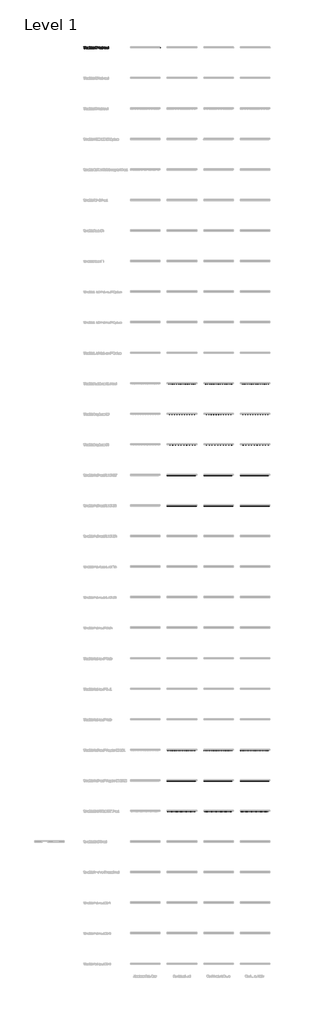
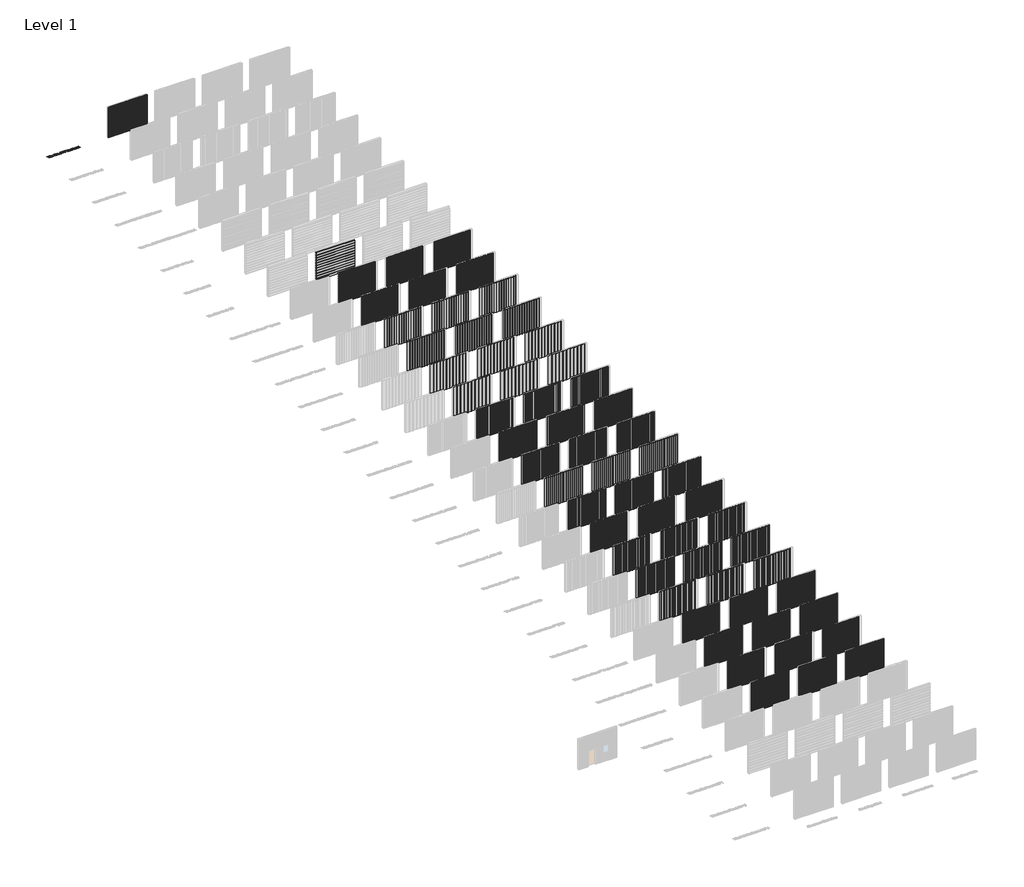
# One storey, part 32 of 33: 60 proxies.
"""IFC4 building model written with IfcOpenShell, lengths in millimetres."""

from ifc_helpers import new_model, si_unit, origin, origin_with_axes, place, context, project, spatial, polyline, outline, extrude, transform, mapped, element, save
from components import aluminum_slate_gray_67ce4d6b, aluminum_slate_gray_498a6bbb, aluminum_slate_gray_40f3fb9b, aluminum_slate_gray_a4144698, aluminum_slate_gray_9a56e31e, aluminum_slate_gray_e1f096ed, steel_bone_white_7c3ab337, aluminum_slate_gray_4f0563ca, aluminum_slate_gray_5a49ca79, aluminum_slate_gray_56dc9e37, aluminum_slate_gray_adac02c7, aluminum_slate_gray_b45d79fe, aluminum_slate_gray_941ba9cd, aluminum_slate_gray_e42b10ff, aluminum_slate_gray_25c6ed16, titantek_7_2_cf_panel_aluminum_slate_gray_eb07de06, titantek_7_2_corrugated_panel_aluminum_slate_gray_cb239071, titantek_flush_100_aluminum_slate_gray_4e4c1b2d, titantek_mechseam_200_panel_aluminum_slate_gray_48fcd1a1, titantek_snapseam_100_panel_aluminum_slate_gray_e5d117f6, titantek_snapseam_175_panel_aluminum_slate_gray_91694518

model = new_model("IFC4")

# Units and contexts
model_context = context("Model", 3, world=origin())
ifc_project = project(units=[si_unit("LENGTHUNIT", "METRE", prefix="MILLI")], contexts=[model_context])

# Site, building, storey
site = spatial("IfcSite", under=ifc_project)
building = spatial("IfcBuilding", under=site)
storey = spatial("IfcBuildingStorey", under=building, Name="Level 1", Elevation=0.0)

# Proxies
placement = place(None, origin())
element("IfcBuildingElementProxy", 1, Name="600mm Arial 2", ObjectType="600mm Arial 2", at=placement, inside=storey, context=model_context, shape_type="SweptSolid", body=[
    extrude(outline(polyline([(-9914.9924556, 132220.4128343), (-9914.9924556, 131952.9873502), (-9954.4439015, 131952.9873502), (-9954.4439015, 132220.4128343), (-10038.8787304, 132220.4128343), (-10038.8787304, 132257.3166776), (-9830.5576267, 132257.3166776), (-9830.5576267, 132220.4128343), (-9914.9924556, 132220.4128343)])), origin_with_axes(), (0.0, 0.0, 1.0), 5.0),
    extrude(outline(polyline([(-9763.1553408, 132253.0221475), (-9763.1553408, 132205.8551051), (-9802.6067867, 132205.8551051), (-9802.6067867, 132253.0221475), (-9763.1553408, 132253.0221475)])), origin_with_axes(), (0.0, 0.0, 1.0), 5.0),
    extrude(outline(polyline([(-9764.0288046, 132178.8505176), (-9764.0288046, 131952.9873502), (-9801.733323, 131952.9873502), (-9801.733323, 132178.8505176), (-9764.0288046, 132178.8505176)])), origin_with_axes(), (0.0, 0.0, 1.0), 5.0),
    extrude(outline(polyline([(-9648.294858, 132012.601251), (-9646.8208879, 132001.5191797), (-9642.3989777, 131993.6034145), (-9635.0291273, 131988.8539554), (-9624.7113368, 131987.2708023), (-9603.2386864, 131987.2708023), (-9603.2386864, 131952.9873502), (-9629.3698101, 131952.9873502), (-9653.1535001, 131956.9543314), (-9671.3688587, 131968.855275), (-9682.6692959, 131987.3981825), (-9686.4361083, 132011.2910554), (-9686.4361083, 132147.1146681), (-9720.2828285, 132147.1146681), (-9720.2828285, 132178.8505176), (-9686.4361083, 132178.8505176), (-9686.4361083, 132226.8910237), (-9648.294858, 132244.8698192), (-9648.294858, 132178.8505176), (-9599.3808881, 132178.8505176), (-9599.3808881, 132147.1146681), (-9648.294858, 132147.1146681), (-9648.294858, 132012.601251)])), origin_with_axes(), (0.0, 0.0, 1.0), 5.0),
    extrude(outline(polyline([(-9422.8684225, 132162.1091291), (-9413.2830677, 132151.3409589), (-9406.4363858, 132138.2526505), (-9400.9590402, 132105.1156196), (-9400.9590402, 131952.9873502), (-9438.2996154, 131952.9873502), (-9438.2996154, 131969.2920069), (-9456.7151427, 131956.8451485), (-9473.7476858, 131952.0410978), (-9493.9829293, 131950.4397476), (-9526.0281305, 131954.7160806), (-9550.1029751, 131967.5450794), (-9565.2248162, 131989.3270816), (-9570.2654299, 132018.5699199), (-9565.1338304, 132046.2114081), (-9549.7390318, 132067.4111012), (-9525.063681, 132080.6222403), (-9493.1094655, 132085.0259534), (-9438.7363472, 132085.0259534), (-9438.7363472, 132105.5523515), (-9441.6296959, 132124.441005), (-9450.3097419, 132138.1616647), (-9464.2305704, 132146.1866129), (-9483.7197302, 132148.8615956), (-9502.2262434, 132146.6051476), (-9515.819523, 132139.8358036), (-9524.1720201, 132129.4816187), (-9526.9561857, 132115.4516073), (-9526.9561857, 132109.8468816), (-9563.8600291, 132109.8468816), (-9563.8600291, 132116.2522824), (-9558.4008807, 132143.2932642), (-9542.0234354, 132164.2927885), (-9516.8203668, 132177.4493362), (-9484.1564621, 132181.8348521), (-9448.6719974, 132176.9034213), (-9434.5600987, 132170.7391329), (-9422.8684225, 132162.1091291)]), holes=[polyline([(-9450.6736851, 131994.5496669), (-9441.7206817, 132009.4531421), (-9438.7363472, 132031.0167784), (-9438.7363472, 132054.9642428), (-9488.8149354, 132054.9642428), (-9507.9538, 132052.7168933), (-9521.6244175, 132045.974845), (-9529.826788, 132034.7380979), (-9532.5609115, 132019.0066518), (-9529.8540837, 132003.0522906), (-9521.7336004, 131991.6563182), (-9508.1994616, 131984.8187348), (-9489.2516673, 131982.5395404), (-9466.104878, 131985.542072), (-9450.6736851, 131994.5496669)])]), origin_with_axes(), (0.0, 0.0, 1.0), 5.0),
    extrude(outline(polyline([(-9306.6977441, 132178.8505176), (-9306.6977441, 132160.4349903), (-9288.2822167, 132173.6825238), (-9271.1222935, 132179.4692211), (-9252.2518372, 132181.3981202), (-9219.9154813, 132175.9389718), (-9206.7907787, 132169.1150363), (-9195.6950595, 132159.5615265), (-9187.0650557, 132147.9790333), (-9180.9007673, 132134.1946835), (-9175.9693365, 132100.0204144), (-9175.9693365, 131952.9873502), (-9213.673855, 131952.9873502), (-9213.673855, 132095.7258843), (-9216.6763866, 132118.1083928), (-9225.6839815, 132133.8671346), (-9240.3781893, 132143.4752358), (-9259.567096, 132146.6779363), (-9278.7378056, 132143.4752358), (-9293.3774219, 132133.8671346), (-9303.0401146, 132117.453295), (-9306.2610122, 132095.7258843), (-9306.2610122, 131952.9873502), (-9343.9655306, 131952.9873502), (-9343.9655306, 132178.8505176), (-9306.6977441, 132178.8505176)])), origin_with_axes(), (0.0, 0.0, 1.0), 5.0),
    extrude(outline(polyline([(-9025.2240514, 132220.4128343), (-9025.2240514, 131952.9873502), (-9064.6754974, 131952.9873502), (-9064.6754974, 132220.4128343), (-9149.1103263, 132220.4128343), (-9149.1103263, 132257.3166776), (-8940.7892225, 132257.3166776), (-8940.7892225, 132220.4128343), (-9025.2240514, 132220.4128343)])), origin_with_axes(), (0.0, 0.0, 1.0), 5.0),
    extrude(outline(polyline([(-8884.5235994, 132047.2486463), (-8881.1025331, 132017.8329349), (-8870.8393341, 131998.8805913), (-8854.3527058, 131988.5900965), (-8832.2613519, 131985.1599316), (-8812.990558, 131987.7257314), (-8798.8513635, 131995.4231306), (-8790.1713175, 132007.1966941), (-8787.2779689, 132022.86445), (-8787.2779689, 132028.3963871), (-8750.3741256, 132028.3963871), (-8750.3741256, 132021.9909863), (-8756.0516399, 131992.8391337), (-8763.1485329, 131980.528754), (-8773.084183, 131969.7287387), (-8799.7976159, 131955.2619954), (-8834.3722226, 131950.4397476), (-8853.3222916, 131951.9387388), (-8870.2843206, 131956.4357123), (-8885.2583098, 131963.9306682), (-8898.2442591, 131974.4236064), (-8908.7371973, 131988.0237099), (-8916.2321532, 132004.8401617), (-8920.7291267, 132024.8729617), (-8922.2281179, 132048.1221101), (-8922.2281179, 132085.8266285), (-8920.7314014, 132108.5321367), (-8916.2412518, 132128.1714231), (-8908.7576691, 132144.7444879), (-8898.2806535, 132158.2513309), (-8885.4971476, 132168.5691214), (-8870.7301511, 132175.9389718), (-8853.979664, 132180.360882), (-8835.2456864, 132181.8348521), (-8816.8438069, 132180.360882), (-8800.2161506, 132175.9389718), (-8785.3627176, 132168.5691214), (-8772.2835079, 132158.2513309), (-8761.9657174, 132144.9082623), (-8754.595867, 132128.389789), (-8750.1739568, 132108.6959111), (-8748.6999867, 132085.8266285), (-8748.6999867, 132055.8377065), (-8884.5235994, 132055.8377065), (-8884.5235994, 132047.2486463)]), holes=[polyline([(-8871.2760659, 132133.4304027), (-8881.2117161, 132115.30603), (-8884.5235994, 132086.7000923), (-8786.4045051, 132086.2633604), (-8786.4045051, 132089.6844267), (-8789.6254027, 132116.9255774), (-8799.2880954, 132134.3038665), (-8814.9012599, 132143.5844188), (-8835.2456864, 132146.6779363), (-8855.60831, 132143.3660529), (-8871.2760659, 132133.4304027)])]), origin_with_axes(), (0.0, 0.0, 1.0), 5.0),
    extrude(outline(polyline([(-8663.391694, 132020.3168474), (-8663.391694, 131952.9873502), (-8701.0962125, 131952.9873502), (-8701.0962125, 132257.3166776), (-8663.391694, 132257.3166776), (-8663.391694, 132070.8321675), (-8575.0990669, 132178.8505176), (-8528.3687564, 132178.8505176), (-8602.5403863, 132091.8680861), (-8517.6688255, 131952.9873502), (-8563.5256722, 131952.9873502), (-8627.7980463, 132062.6798392), (-8663.391694, 132020.3168474)])), origin_with_axes(), (0.0, 0.0, 1.0), 5.0),
    extrude(outline(polyline([(-8290.7138284, 132257.3166776), (-8267.5260955, 132255.5470037), (-8246.8040779, 132250.2379818), (-8228.5477758, 132241.3896121), (-8212.7571889, 132229.0018945), (-8200.1784011, 132212.6471956), (-8191.1935527, 132192.3346142), (-8185.8026436, 132168.0641502), (-8184.0056739, 132139.8358036), (-8184.0056739, 132070.3954356), (-8185.8026436, 132042.1716383), (-8191.1935527, 132017.9148221), (-8200.1784011, 131997.6249872), (-8212.7571889, 131981.3021334), (-8228.5477758, 131968.9144158), (-8246.8040779, 131960.066046), (-8267.5260955, 131954.7570242), (-8290.7138284, 131952.9873502), (-8396.1845759, 131952.9873502), (-8396.1845759, 132257.3166776), (-8290.7138284, 132257.3166776)]), holes=[polyline([(-8290.3498852, 131989.8184049), (-8261.4664407, 131994.7498357), (-8250.1193733, 132000.9141241), (-8240.835409, 132009.5441279), (-8228.4567899, 132034.2012816), (-8224.3305836, 132068.7212968), (-8224.3305836, 132138.5983966), (-8228.6069165, 132176.0663519), (-8233.9523327, 132190.1464056), (-8241.4359153, 132201.1238432), (-8262.035102, 132215.5905865), (-8290.3498852, 132220.4128343), (-8355.8596662, 132220.4128343), (-8355.8596662, 131989.8184049), (-8290.3498852, 131989.8184049)])]), origin_with_axes(), (0.0, 0.0, 1.0), 5.0),
    extrude(outline(polyline([(-7975.0294723, 132257.3166776), (-7933.4671557, 132257.3166776), (-8032.8964456, 131952.9873502), (-8064.6322951, 131952.9873502), (-8163.6248531, 132257.3166776), (-8122.0625365, 132257.3166776), (-8048.3276385, 132022.86445), (-7975.0294723, 132257.3166776)])), origin_with_axes(), (0.0, 0.0, 1.0), 5.0),
    extrude(outline(polyline([(-7892.9238801, 131968.855275), (-7902.66846, 131980.1466136), (-7909.6288742, 131993.0574997), (-7915.1972056, 132023.7379138), (-7915.1972056, 132034.8745766), (-7875.3090278, 132034.8745766), (-7875.3090278, 132024.9753208), (-7872.5248621, 132008.2703266), (-7864.172365, 131995.8598625), (-7850.7792542, 131987.8349143), (-7832.8732474, 131985.1599316), (-7814.2575513, 131988.253449), (-7800.3367228, 131997.5340014), (-7791.6566768, 132012.6558425), (-7788.7633282, 132032.2541853), (-7788.7633282, 132043.3908481), (-7791.8750428, 132063.5715001), (-7801.2101866, 132079.4212277), (-7815.6405356, 132089.0839204), (-7835.0569068, 132092.304818), (-7854.7826297, 132092.304818), (-7854.7826297, 132129.1358727), (-7835.4936387, 132129.1358727), (-7818.1335467, 132132.1384043), (-7804.6312529, 132141.1459992), (-7796.2787558, 132155.5035595), (-7793.4945901, 132173.6825238), (-7793.4945901, 132182.271584), (-7796.1695729, 132200.1775908), (-7804.194521, 132213.5707016), (-7817.1509, 132222.2507476), (-7833.7467112, 132225.1440962), (-7850.4517053, 132222.4691135), (-7862.8621694, 132214.4441653), (-7870.6141602, 132201.5787722), (-7873.1981571, 132185.2559184), (-7873.1981571, 132174.1192557), (-7911.7761393, 132174.1192557), (-7911.7761393, 132186.1293822), (-7906.4079767, 132216.9917679), (-7899.6977734, 132229.857161), (-7890.3034888, 132241.012021), (-7879.0166995, 132249.9923201), (-7865.6827294, 132256.4068195), (-7832.8732474, 132261.5384191), (-7800.3185257, 132256.2976366), (-7786.9208656, 132249.7466585), (-7775.443006, 132240.5752891), (-7766.0805665, 132229.0155423), (-7759.3931097, 132215.7361638), (-7754.0431442, 132184.0185115), (-7754.0431442, 132174.5559875), (-7756.8273099, 132153.1379286), (-7765.179807, 132135.1773302), (-7774.8424997, 132123.0398236), (-7785.7789937, 132114.1414117), (-7771.7307851, 132104.2785502), (-7760.448545, 132090.1211586), (-7751.768499, 132069.0124514), (-7748.8751504, 132044.2643119), (-7748.8751504, 132034.0011128), (-7754.6618477, 131999.3901118), (-7761.8952193, 131984.7322983), (-7772.0219397, 131971.8396095), (-7784.6962626, 131961.7128891), (-7799.1357102, 131954.4795175), (-7833.3099793, 131948.6928201), (-7866.6289818, 131953.7334339), (-7892.9238801, 131968.855275)])), origin_with_axes(), (0.0, 0.0, 1.0), 5.0),
    extrude(outline(polyline([(-7443.9635138, 132257.3166776), (-7402.4011972, 132257.3166776), (-7501.8304871, 131952.9873502), (-7533.5663366, 131952.9873502), (-7632.5588946, 132257.3166776), (-7590.996578, 132257.3166776), (-7517.26168, 132022.86445), (-7443.9635138, 132257.3166776)])), origin_with_axes(), (0.0, 0.0, 1.0), 5.0),
    extrude(outline(polyline([(-7242.7029087, 132162.1091291), (-7233.1175539, 132151.3409589), (-7226.2708719, 132138.2526505), (-7220.7935263, 132105.1156196), (-7220.7935263, 131952.9873502), (-7258.1341015, 131952.9873502), (-7258.1341015, 131969.2920069), (-7276.5496289, 131956.8451485), (-7293.582172, 131952.0410978), (-7313.8174154, 131950.4397476), (-7345.8626167, 131954.7160806), (-7369.9374612, 131967.5450794), (-7385.0593024, 131989.3270816), (-7390.0999161, 132018.5699199), (-7384.9683165, 132046.2114081), (-7369.573518, 132067.4111012), (-7344.8981671, 132080.6222403), (-7312.9439517, 132085.0259534), (-7258.5708334, 132085.0259534), (-7258.5708334, 132105.5523515), (-7261.4641821, 132124.441005), (-7270.1442281, 132138.1616647), (-7284.0650565, 132146.1866129), (-7303.5542164, 132148.8615956), (-7322.0607296, 132146.6051476), (-7335.6540091, 132139.8358036), (-7344.0065062, 132129.4816187), (-7346.7906719, 132115.4516073), (-7346.7906719, 132109.8468816), (-7383.6945152, 132109.8468816), (-7383.6945152, 132116.2522824), (-7378.2353668, 132143.2932642), (-7361.8579216, 132164.2927885), (-7336.654853, 132177.4493362), (-7303.9909483, 132181.8348521), (-7268.5064835, 132176.9034213), (-7254.3945849, 132170.7391329), (-7242.7029087, 132162.1091291)]), holes=[polyline([(-7270.5081713, 131994.5496669), (-7261.5551679, 132009.4531421), (-7258.5708334, 132031.0167784), (-7258.5708334, 132054.9642428), (-7308.6494216, 132054.9642428), (-7327.7882861, 132052.7168933), (-7341.4589036, 132045.974845), (-7349.6612741, 132034.7380979), (-7352.3953976, 132019.0066518), (-7349.6885699, 132003.0522906), (-7341.5680866, 131991.6563182), (-7328.0339478, 131984.8187348), (-7309.0861535, 131982.5395404), (-7285.9393642, 131985.542072), (-7270.5081713, 131994.5496669)])]), origin_with_axes(), (0.0, 0.0, 1.0), 5.0),
    extrude(outline(polyline([(-7073.8332508, 132181.8348521), (-7053.670796, 132179.7239814), (-7053.670796, 132140.7092673), (-7080.2386516, 132146.313993), (-7098.5722917, 132142.7746451), (-7113.2483024, 132132.1566015), (-7122.8836994, 132115.7518604), (-7126.0954984, 132094.8524206), (-7126.0954984, 131952.9873502), (-7163.8000168, 131952.9873502), (-7163.8000168, 132178.8505176), (-7126.5322302, 132178.8505176), (-7126.5322302, 132159.1247947), (-7108.9901667, 132173.3185806), (-7092.8856788, 132179.7057842), (-7073.8332508, 132181.8348521)])), origin_with_axes(), (0.0, 0.0, 1.0), 5.0),
    extrude(outline(polyline([(-6977.3882954, 132253.0221475), (-6977.3882954, 132205.8551051), (-7016.8397413, 132205.8551051), (-7016.8397413, 132253.0221475), (-6977.3882954, 132253.0221475)])), origin_with_axes(), (0.0, 0.0, 1.0), 5.0),
    extrude(outline(polyline([(-6978.2617591, 132178.8505176), (-6978.2617591, 131952.9873502), (-7015.9662775, 131952.9873502), (-7015.9662775, 132178.8505176), (-6978.2617591, 132178.8505176)])), origin_with_axes(), (0.0, 0.0, 1.0), 5.0),
    extrude(outline(polyline([(-6733.036812, 132233.2964245), (-6721.6044453, 132219.8396237), (-6713.4384691, 132203.926206), (-6708.5388834, 132185.5561716), (-6706.9056882, 132164.7295204), (-6708.5661792, 132145.044741), (-6713.5476521, 132127.5527196), (-6721.850107, 132112.2534562), (-6733.4735439, 132099.1469507), (-6747.530851, 132088.6380899), (-6764.0083807, 132081.1317609), (-6782.9061328, 132076.6279634), (-6804.2241074, 132075.1266976), (-6874.9018823, 132075.1266976), (-6874.9018823, 131952.9873502), (-6914.7900601, 131952.9873502), (-6914.7900601, 132257.3166776), (-6804.2241074, 132257.3166776), (-6783.0426115, 132255.8154118), (-6764.1175637, 132251.3116143), (-6747.4489638, 132243.8052853), (-6733.036812, 132233.2964245)]), holes=[polyline([(-6761.788327, 132125.2780744), (-6750.5424813, 132141.5827311), (-6746.793866, 132164.7295204), (-6750.6516642, 132189.3502798), (-6762.2250589, 132206.7285689), (-6781.295684, 132216.9917679), (-6806.77171, 132220.4128343), (-6874.9018823, 132220.4128343), (-6874.9018823, 132112.0305409), (-6806.77171, 132112.0305409), (-6780.5314033, 132115.3424243), (-6761.788327, 132125.2780744)])]), origin_with_axes(), (0.0, 0.0, 1.0), 5.0),
    extrude(outline(polyline([(-6534.614964, 132162.1091291), (-6525.0296092, 132151.3409589), (-6518.1829273, 132138.2526505), (-6512.7055817, 132105.1156196), (-6512.7055817, 131952.9873502), (-6550.0461569, 131952.9873502), (-6550.0461569, 131969.2920069), (-6568.4616842, 131956.8451485), (-6585.4942273, 131952.0410978), (-6605.7294708, 131950.4397476), (-6637.774672, 131954.7160806), (-6661.8495166, 131967.5450794), (-6676.9713577, 131989.3270816), (-6682.0119714, 132018.5699199), (-6676.8803719, 132046.2114081), (-6661.4855733, 132067.4111012), (-6636.8102225, 132080.6222403), (-6604.856007, 132085.0259534), (-6550.4828888, 132085.0259534), (-6550.4828888, 132105.5523515), (-6553.3762374, 132124.441005), (-6562.0562834, 132138.1616647), (-6575.9771119, 132146.1866129), (-6595.4662717, 132148.8615956), (-6613.9727849, 132146.6051476), (-6627.5660645, 132139.8358036), (-6635.9185616, 132129.4816187), (-6638.7027273, 132115.4516073), (-6638.7027273, 132109.8468816), (-6675.6065706, 132109.8468816), (-6675.6065706, 132116.2522824), (-6670.1474222, 132143.2932642), (-6653.7699769, 132164.2927885), (-6628.5669083, 132177.4493362), (-6595.9030036, 132181.8348521), (-6560.4185389, 132176.9034213), (-6546.3066402, 132170.7391329), (-6534.614964, 132162.1091291)]), holes=[polyline([(-6562.4202266, 131994.5496669), (-6553.4672232, 132009.4531421), (-6550.4828888, 132031.0167784), (-6550.4828888, 132054.9642428), (-6600.5614769, 132054.9642428), (-6619.7003415, 132052.7168933), (-6633.370959, 132045.974845), (-6641.5733295, 132034.7380979), (-6644.307453, 132019.0066518), (-6641.6006252, 132003.0522906), (-6633.4801419, 131991.6563182), (-6619.9460031, 131984.8187348), (-6600.9982088, 131982.5395404), (-6577.8514195, 131985.542072), (-6562.4202266, 131994.5496669)])]), origin_with_axes(), (0.0, 0.0, 1.0), 5.0),
    extrude(outline(polyline([(-6418.4442856, 132178.8505176), (-6418.4442856, 132160.4349903), (-6400.0287582, 132173.6825238), (-6382.868835, 132179.4692211), (-6363.9983787, 132181.3981202), (-6331.6620228, 132175.9389718), (-6318.5373202, 132169.1150363), (-6307.441601, 132159.5615265), (-6298.8115972, 132147.9790333), (-6292.6473088, 132134.1946835), (-6287.715878, 132100.0204144), (-6287.715878, 131952.9873502), (-6325.4203965, 131952.9873502), (-6325.4203965, 132095.7258843), (-6328.4229281, 132118.1083928), (-6337.430523, 132133.8671346), (-6352.1247308, 132143.4752358), (-6371.3136375, 132146.6779363), (-6390.4843471, 132143.4752358), (-6405.1239634, 132133.8671346), (-6414.7866561, 132117.453295), (-6418.0075537, 132095.7258843), (-6418.0075537, 131952.9873502), (-6455.7120721, 131952.9873502), (-6455.7120721, 132178.8505176), (-6418.4442856, 132178.8505176)])), origin_with_axes(), (0.0, 0.0, 1.0), 5.0),
    extrude(outline(polyline([(-6201.242967, 132047.2486463), (-6197.8219007, 132017.8329349), (-6187.5587017, 131998.8805913), (-6171.0720734, 131988.5900965), (-6148.9807195, 131985.1599316), (-6129.7099255, 131987.7257314), (-6115.5707311, 131995.4231306), (-6106.8906851, 132007.1966941), (-6103.9973365, 132022.86445), (-6103.9973365, 132028.3963871), (-6067.0934931, 132028.3963871), (-6067.0934931, 132021.9909863), (-6072.7710075, 131992.8391337), (-6079.8679004, 131980.528754), (-6089.8035506, 131969.7287387), (-6116.5169835, 131955.2619954), (-6151.0915902, 131950.4397476), (-6170.0416592, 131951.9387388), (-6187.0036882, 131956.4357123), (-6201.9776774, 131963.9306682), (-6214.9636267, 131974.4236064), (-6225.4565649, 131988.0237099), (-6232.9515208, 132004.8401617), (-6237.4484943, 132024.8729617), (-6238.9474855, 132048.1221101), (-6238.9474855, 132085.8266285), (-6237.4507689, 132108.5321367), (-6232.9606194, 132128.1714231), (-6225.4770367, 132144.7444879), (-6215.0000211, 132158.2513309), (-6202.2165152, 132168.5691214), (-6187.4495187, 132175.9389718), (-6170.6990316, 132180.360882), (-6151.9650539, 132181.8348521), (-6133.5631745, 132180.360882), (-6116.9355182, 132175.9389718), (-6102.0820852, 132168.5691214), (-6089.0028755, 132158.2513309), (-6078.685085, 132144.9082623), (-6071.3152346, 132128.389789), (-6066.8933244, 132108.6959111), (-6065.4193543, 132085.8266285), (-6065.4193543, 132055.8377065), (-6201.242967, 132055.8377065), (-6201.242967, 132047.2486463)]), holes=[polyline([(-6187.9954335, 132133.4304027), (-6197.9310837, 132115.30603), (-6201.242967, 132086.7000923), (-6103.1238727, 132086.2633604), (-6103.1238727, 132089.6844267), (-6106.3447703, 132116.9255774), (-6116.007463, 132134.3038665), (-6131.6206275, 132143.5844188), (-6151.9650539, 132146.6779363), (-6172.3276776, 132143.3660529), (-6187.9954335, 132133.4304027)])]), origin_with_axes(), (0.0, 0.0, 1.0), 5.0),
    extrude(outline(polyline([(-6002.8211191, 131968.855275), (-6014.0669648, 131988.362632), (-6017.81558, 132014.2753899), (-6017.81558, 132257.3166776), (-5980.1110616, 132257.3166776), (-5980.1110616, 132016.0223174), (-5978.7280773, 132002.6110094), (-5974.5791245, 131994.112935), (-5967.5914146, 131989.6364333), (-5956.9642723, 131988.1442661), (-5935.1276786, 131988.1442661), (-5935.1276786, 131952.9873502), (-5959.9486068, 131952.9873502), (-5984.8241264, 131956.9543314), (-6002.8211191, 131968.855275)])), origin_with_axes(), (0.0, 0.0, 1.0), 5.0),
])
aluminum_slate_gray_shape = aluminum_slate_gray_67ce4d6b(model_context)
element("IfcBuildingElementProxy", 2, Name="TITANTEK DV 3 VariPanel : Aluminum Slate Gray", ObjectType="TITANTEK DV 3 VariPanel : Aluminum Slate Gray", at=placement, inside=storey, context=model_context, shape_type="MappedRepresentation", body=[
    mapped(aluminum_slate_gray_shape, transform((-2360.5897817, 132078.6095025, 0.0), x_axis=(1.0, 0.0, 0.0), y_axis=(0.0, 1.0, 0.0), z_axis=(0.0, 0.0, 1.0))),
])
aluminum_slate_gray_2_shape = aluminum_slate_gray_498a6bbb(model_context)
element("IfcBuildingElementProxy", 3, Name="TitanTek VariPanel™ Angular CONCAVE : Steel Bone White", ObjectType="TitanTek VariPanel™ Angular CONCAVE : Steel Bone White", at=placement, inside=storey, context=model_context, shape_type="MappedRepresentation", body=[
    mapped(aluminum_slate_gray_2_shape, transform((15639.4102183, 12078.6095025, 0.0), x_axis=(1.0, 0.0, 0.0), y_axis=(0.0, 1.0, 0.0), z_axis=(0.0, 0.0, 1.0))),
])
aluminum_slate_gray_3_shape = aluminum_slate_gray_40f3fb9b(model_context)
element("IfcBuildingElementProxy", 4, Name="TitanTek VariPanel™ Angular CONVEX : Steel Bone White", ObjectType="TitanTek VariPanel™ Angular CONVEX : Steel Bone White", at=placement, inside=storey, context=model_context, shape_type="MappedRepresentation", body=[
    mapped(aluminum_slate_gray_3_shape, transform((15639.4102183, 17078.6095025, 0.0), x_axis=(1.0, 0.0, 0.0), y_axis=(0.0, 1.0, 0.0), z_axis=(0.0, 0.0, 1.0))),
])
aluminum_slate_gray_4_shape = aluminum_slate_gray_a4144698(model_context)
element("IfcBuildingElementProxy", 5, Name="TitanTek VariPanel™ 1 Rib : Steel Bone White", ObjectType="TitanTek VariPanel™ 1 Rib : Steel Bone White", at=placement, inside=storey, context=model_context, shape_type="MappedRepresentation", body=[
    mapped(aluminum_slate_gray_4_shape, transform((15639.4102183, 22078.6095025, 0.0), x_axis=(1.0, 0.0, 0.0), y_axis=(0.0, 1.0, 0.0), z_axis=(0.0, 0.0, 1.0))),
])
aluminum_slate_gray_5_shape = aluminum_slate_gray_9a56e31e(model_context)
element("IfcBuildingElementProxy", 6, Name="TitanTek VariPanel™ 2 Rib : Steel Bone White", ObjectType="TitanTek VariPanel™ 2 Rib : Steel Bone White", at=placement, inside=storey, context=model_context, shape_type="MappedRepresentation", body=[
    mapped(aluminum_slate_gray_5_shape, transform((15639.4102183, 27078.6095025, 0.0), x_axis=(1.0, 0.0, 0.0), y_axis=(0.0, 1.0, 0.0), z_axis=(0.0, 0.0, 1.0))),
])
aluminum_slate_gray_6_shape = aluminum_slate_gray_e1f096ed(model_context)
element("IfcBuildingElementProxy", 7, Name="TitanTek VariPanel™ 3 Rib : Steel Bone White", ObjectType="TitanTek VariPanel™ 3 Rib : Steel Bone White", at=placement, inside=storey, context=model_context, shape_type="MappedRepresentation", body=[
    mapped(aluminum_slate_gray_6_shape, transform((15639.4102183, 32078.6095025, 0.0), x_axis=(1.0, 0.0, 0.0), y_axis=(0.0, 1.0, 0.0), z_axis=(0.0, 0.0, 1.0))),
])
steel_bone_white_shape = steel_bone_white_7c3ab337(model_context)
element("IfcBuildingElementProxy", 8, Name="TitanTek VariPanel™ 4 Rib : Steel Bone White", ObjectType="TitanTek VariPanel™ 4 Rib : Steel Bone White", at=placement, inside=storey, context=model_context, shape_type="MappedRepresentation", body=[
    mapped(steel_bone_white_shape, transform((15639.4102183, 37078.6095025, 0.0), x_axis=(1.0, 0.0, 0.0), y_axis=(0.0, 1.0, 0.0), z_axis=(0.0, 0.0, 1.0))),
])
aluminum_slate_gray_7_shape = aluminum_slate_gray_4f0563ca(model_context)
element("IfcBuildingElementProxy", 9, Name="TitanTek VariPanel PLANK 475 : Steel Bone White", ObjectType="TitanTek VariPanel PLANK 475 : Steel Bone White", at=placement, inside=storey, context=model_context, shape_type="MappedRepresentation", body=[
    mapped(aluminum_slate_gray_7_shape, transform((15639.4102183, 42078.6095025, 0.0), x_axis=(1.0, 0.0, 0.0), y_axis=(0.0, 1.0, 0.0), z_axis=(0.0, 0.0, 1.0))),
])
aluminum_slate_gray_8_shape = aluminum_slate_gray_5a49ca79(model_context)
element("IfcBuildingElementProxy", 10, Name="TitanTek VariPanel PLANK 875 : Steel Bone White", ObjectType="TitanTek VariPanel PLANK 875 : Steel Bone White", at=placement, inside=storey, context=model_context, shape_type="MappedRepresentation", body=[
    mapped(aluminum_slate_gray_8_shape, transform((15639.4102183, 47078.6095025, 0.0), x_axis=(1.0, 0.0, 0.0), y_axis=(0.0, 1.0, 0.0), z_axis=(0.0, 0.0, 1.0))),
])
aluminum_slate_gray_9_shape = aluminum_slate_gray_56dc9e37(model_context)
element("IfcBuildingElementProxy", 11, Name="TitanTek VariPanel PLANK 950 : Steel Bone White", ObjectType="TitanTek VariPanel PLANK 950 : Steel Bone White", at=placement, inside=storey, context=model_context, shape_type="MappedRepresentation", body=[
    mapped(aluminum_slate_gray_9_shape, transform((15639.4102183, 52078.6095025, 0.0), x_axis=(1.0, 0.0, 0.0), y_axis=(0.0, 1.0, 0.0), z_axis=(0.0, 0.0, 1.0))),
])
aluminum_slate_gray_10_shape = aluminum_slate_gray_adac02c7(model_context)
element("IfcBuildingElementProxy", 12, Name="TitanTek VariPanel PLANK 975 : Steel Bone White", ObjectType="TitanTek VariPanel PLANK 975 : Steel Bone White", at=placement, inside=storey, context=model_context, shape_type="MappedRepresentation", body=[
    mapped(aluminum_slate_gray_10_shape, transform((15639.4102183, 57078.6095025, 0.0), x_axis=(1.0, 0.0, 0.0), y_axis=(0.0, 1.0, 0.0), z_axis=(0.0, 0.0, 1.0))),
])
aluminum_slate_gray_11_shape = aluminum_slate_gray_b45d79fe(model_context)
element("IfcBuildingElementProxy", 13, Name="TitanTek VariPanel PLANK 1326 : Steel Bone White", ObjectType="TitanTek VariPanel PLANK 1326 : Steel Bone White", at=placement, inside=storey, context=model_context, shape_type="MappedRepresentation", body=[
    mapped(aluminum_slate_gray_11_shape, transform((15639.4102183, 62078.6095025, 0.0), x_axis=(1.0, 0.0, 0.0), y_axis=(0.0, 1.0, 0.0), z_axis=(0.0, 0.0, 1.0))),
])
aluminum_slate_gray_12_shape = aluminum_slate_gray_941ba9cd(model_context)
element("IfcBuildingElementProxy", 14, Name="TitanTek LBR 1 VariPanel™ System : Steel Bone White", ObjectType="TitanTek LBR 1 VariPanel™ System : Steel Bone White", at=placement, inside=storey, context=model_context, shape_type="MappedRepresentation", body=[
    mapped(aluminum_slate_gray_12_shape, transform((15639.4102183, 82078.6095025, 0.0), x_axis=(1.0, 0.0, 0.0), y_axis=(0.0, 1.0, 0.0), z_axis=(0.0, 0.0, 1.0))),
])
aluminum_slate_gray_13_shape = aluminum_slate_gray_e42b10ff(model_context)
element("IfcBuildingElementProxy", 15, Name="TitanTek LBR 2 VariPanel™ System : Steel Bone White", ObjectType="TitanTek LBR 2 VariPanel™ System : Steel Bone White", at=placement, inside=storey, context=model_context, shape_type="MappedRepresentation", body=[
    mapped(aluminum_slate_gray_13_shape, transform((15639.4102183, 87078.6095025, 0.0), x_axis=(1.0, 0.0, 0.0), y_axis=(0.0, 1.0, 0.0), z_axis=(0.0, 0.0, 1.0))),
])
aluminum_slate_gray_14_shape = aluminum_slate_gray_25c6ed16(model_context)
element("IfcBuildingElementProxy", 16, Name="TitanTek LBR 3 VariPanel™ System : Steel Bone White", ObjectType="TitanTek LBR 3 VariPanel™ System : Steel Bone White", at=placement, inside=storey, context=model_context, shape_type="MappedRepresentation", body=[
    mapped(aluminum_slate_gray_14_shape, transform((15639.4102183, 92078.6095025, 0.0), x_axis=(1.0, 0.0, 0.0), y_axis=(0.0, 1.0, 0.0), z_axis=(0.0, 0.0, 1.0))),
])
element("IfcBuildingElementProxy", 17, Name="TitanTek VariPanel™ Angular CONCAVE : Steel Hemlock Green", ObjectType="TitanTek VariPanel™ Angular CONCAVE : Steel Hemlock Green", at=placement, inside=storey, context=model_context, shape_type="MappedRepresentation", body=[
    mapped(aluminum_slate_gray_2_shape, transform((9639.4102183, 12078.6095025, 0.0), x_axis=(1.0, 0.0, 0.0), y_axis=(0.0, 1.0, 0.0), z_axis=(0.0, 0.0, 1.0))),
])
element("IfcBuildingElementProxy", 18, Name="TitanTek VariPanel™ Angular CONVEX : Steel Hemlock Green", ObjectType="TitanTek VariPanel™ Angular CONVEX : Steel Hemlock Green", at=placement, inside=storey, context=model_context, shape_type="MappedRepresentation", body=[
    mapped(aluminum_slate_gray_3_shape, transform((9639.4102183, 17078.6095025, 0.0), x_axis=(1.0, 0.0, 0.0), y_axis=(0.0, 1.0, 0.0), z_axis=(0.0, 0.0, 1.0))),
])
element("IfcBuildingElementProxy", 19, Name="TitanTek VariPanel™ 1 Rib : Steel Hemlock Green", ObjectType="TitanTek VariPanel™ 1 Rib : Steel Hemlock Green", at=placement, inside=storey, context=model_context, shape_type="MappedRepresentation", body=[
    mapped(aluminum_slate_gray_4_shape, transform((9639.4102183, 22078.6095025, 0.0), x_axis=(1.0, 0.0, 0.0), y_axis=(0.0, 1.0, 0.0), z_axis=(0.0, 0.0, 1.0))),
])
element("IfcBuildingElementProxy", 20, Name="TitanTek VariPanel™ 2 Rib : Steel Hemlock Green", ObjectType="TitanTek VariPanel™ 2 Rib : Steel Hemlock Green", at=placement, inside=storey, context=model_context, shape_type="MappedRepresentation", body=[
    mapped(aluminum_slate_gray_5_shape, transform((9639.4102183, 27078.6095025, 0.0), x_axis=(1.0, 0.0, 0.0), y_axis=(0.0, 1.0, 0.0), z_axis=(0.0, 0.0, 1.0))),
])
element("IfcBuildingElementProxy", 21, Name="TitanTek VariPanel™ 3 Rib : Steel Hemlock Green", ObjectType="TitanTek VariPanel™ 3 Rib : Steel Hemlock Green", at=placement, inside=storey, context=model_context, shape_type="MappedRepresentation", body=[
    mapped(aluminum_slate_gray_6_shape, transform((9639.4102183, 32078.6095025, 0.0), x_axis=(1.0, 0.0, 0.0), y_axis=(0.0, 1.0, 0.0), z_axis=(0.0, 0.0, 1.0))),
])
element("IfcBuildingElementProxy", 22, Name="TitanTek VariPanel™ 4 Rib : Steel Hemlock Green", ObjectType="TitanTek VariPanel™ 4 Rib : Steel Hemlock Green", at=placement, inside=storey, context=model_context, shape_type="MappedRepresentation", body=[
    mapped(steel_bone_white_shape, transform((9639.4102183, 37078.6095025, 0.0), x_axis=(1.0, 0.0, 0.0), y_axis=(0.0, 1.0, 0.0), z_axis=(0.0, 0.0, 1.0))),
])
element("IfcBuildingElementProxy", 23, Name="TitanTek VariPanel PLANK 475 : Steel Hemlock Green", ObjectType="TitanTek VariPanel PLANK 475 : Steel Hemlock Green", at=placement, inside=storey, context=model_context, shape_type="MappedRepresentation", body=[
    mapped(aluminum_slate_gray_7_shape, transform((9639.4102183, 42078.6095025, 0.0), x_axis=(1.0, 0.0, 0.0), y_axis=(0.0, 1.0, 0.0), z_axis=(0.0, 0.0, 1.0))),
])
element("IfcBuildingElementProxy", 24, Name="TitanTek VariPanel PLANK 875 : Steel Hemlock Green", ObjectType="TitanTek VariPanel PLANK 875 : Steel Hemlock Green", at=placement, inside=storey, context=model_context, shape_type="MappedRepresentation", body=[
    mapped(aluminum_slate_gray_8_shape, transform((9639.4102183, 47078.6095025, 0.0), x_axis=(1.0, 0.0, 0.0), y_axis=(0.0, 1.0, 0.0), z_axis=(0.0, 0.0, 1.0))),
])
element("IfcBuildingElementProxy", 25, Name="TitanTek VariPanel PLANK 950 : Steel Hemlock Green", ObjectType="TitanTek VariPanel PLANK 950 : Steel Hemlock Green", at=placement, inside=storey, context=model_context, shape_type="MappedRepresentation", body=[
    mapped(aluminum_slate_gray_9_shape, transform((9639.4102183, 52078.6095025, 0.0), x_axis=(1.0, 0.0, 0.0), y_axis=(0.0, 1.0, 0.0), z_axis=(0.0, 0.0, 1.0))),
])
element("IfcBuildingElementProxy", 26, Name="TitanTek VariPanel PLANK 975 : Steel Hemlock Green", ObjectType="TitanTek VariPanel PLANK 975 : Steel Hemlock Green", at=placement, inside=storey, context=model_context, shape_type="MappedRepresentation", body=[
    mapped(aluminum_slate_gray_10_shape, transform((9639.4102183, 57078.6095025, 0.0), x_axis=(1.0, 0.0, 0.0), y_axis=(0.0, 1.0, 0.0), z_axis=(0.0, 0.0, 1.0))),
])
element("IfcBuildingElementProxy", 27, Name="TitanTek VariPanel PLANK 1326 : Steel Hemlock Green", ObjectType="TitanTek VariPanel PLANK 1326 : Steel Hemlock Green", at=placement, inside=storey, context=model_context, shape_type="MappedRepresentation", body=[
    mapped(aluminum_slate_gray_11_shape, transform((9639.4102183, 62078.6095025, 0.0), x_axis=(1.0, 0.0, 0.0), y_axis=(0.0, 1.0, 0.0), z_axis=(0.0, 0.0, 1.0))),
])
element("IfcBuildingElementProxy", 28, Name="TitanTek LBR 1 VariPanel™ System : Steel Hemlock Green", ObjectType="TitanTek LBR 1 VariPanel™ System : Steel Hemlock Green", at=placement, inside=storey, context=model_context, shape_type="MappedRepresentation", body=[
    mapped(aluminum_slate_gray_12_shape, transform((9639.4102183, 82078.6095025, 0.0), x_axis=(1.0, 0.0, 0.0), y_axis=(0.0, 1.0, 0.0), z_axis=(0.0, 0.0, 1.0))),
])
element("IfcBuildingElementProxy", 29, Name="TitanTek LBR 2 VariPanel™ System : Steel Hemlock Green", ObjectType="TitanTek LBR 2 VariPanel™ System : Steel Hemlock Green", at=placement, inside=storey, context=model_context, shape_type="MappedRepresentation", body=[
    mapped(aluminum_slate_gray_13_shape, transform((9639.4102183, 87078.6095025, 0.0), x_axis=(1.0, 0.0, 0.0), y_axis=(0.0, 1.0, 0.0), z_axis=(0.0, 0.0, 1.0))),
])
element("IfcBuildingElementProxy", 30, Name="TitanTek LBR 3 VariPanel™ System : Steel Hemlock Green", ObjectType="TitanTek LBR 3 VariPanel™ System : Steel Hemlock Green", at=placement, inside=storey, context=model_context, shape_type="MappedRepresentation", body=[
    mapped(aluminum_slate_gray_14_shape, transform((9639.4102183, 92078.6095025, 0.0), x_axis=(1.0, 0.0, 0.0), y_axis=(0.0, 1.0, 0.0), z_axis=(0.0, 0.0, 1.0))),
])
element("IfcBuildingElementProxy", 31, Name="TitanTek VariPanel™ Angular CONCAVE : Steel Regal Red", ObjectType="TitanTek VariPanel™ Angular CONCAVE : Steel Regal Red", at=placement, inside=storey, context=model_context, shape_type="MappedRepresentation", body=[
    mapped(aluminum_slate_gray_2_shape, transform((3639.4102183, 12078.6095025, 0.0), x_axis=(1.0, 0.0, 0.0), y_axis=(0.0, 1.0, 0.0), z_axis=(0.0, 0.0, 1.0))),
])
element("IfcBuildingElementProxy", 32, Name="TitanTek VariPanel™ Angular CONVEX : Steel Regal Red", ObjectType="TitanTek VariPanel™ Angular CONVEX : Steel Regal Red", at=placement, inside=storey, context=model_context, shape_type="MappedRepresentation", body=[
    mapped(aluminum_slate_gray_3_shape, transform((3639.4102183, 17078.6095025, 0.0), x_axis=(1.0, 0.0, 0.0), y_axis=(0.0, 1.0, 0.0), z_axis=(0.0, 0.0, 1.0))),
])
element("IfcBuildingElementProxy", 33, Name="TitanTek VariPanel™ 1 Rib : Steel Regal Red", ObjectType="TitanTek VariPanel™ 1 Rib : Steel Regal Red", at=placement, inside=storey, context=model_context, shape_type="MappedRepresentation", body=[
    mapped(aluminum_slate_gray_4_shape, transform((3639.4102183, 22078.6095025, 0.0), x_axis=(1.0, 0.0, 0.0), y_axis=(0.0, 1.0, 0.0), z_axis=(0.0, 0.0, 1.0))),
])
element("IfcBuildingElementProxy", 34, Name="TitanTek VariPanel™ 2 Rib : Steel Regal Red", ObjectType="TitanTek VariPanel™ 2 Rib : Steel Regal Red", at=placement, inside=storey, context=model_context, shape_type="MappedRepresentation", body=[
    mapped(aluminum_slate_gray_5_shape, transform((3639.4102183, 27078.6095025, 0.0), x_axis=(1.0, 0.0, 0.0), y_axis=(0.0, 1.0, 0.0), z_axis=(0.0, 0.0, 1.0))),
])
element("IfcBuildingElementProxy", 35, Name="TitanTek VariPanel™ 3 Rib : Steel Regal Red", ObjectType="TitanTek VariPanel™ 3 Rib : Steel Regal Red", at=placement, inside=storey, context=model_context, shape_type="MappedRepresentation", body=[
    mapped(aluminum_slate_gray_6_shape, transform((3639.4102183, 32078.6095025, 0.0), x_axis=(1.0, 0.0, 0.0), y_axis=(0.0, 1.0, 0.0), z_axis=(0.0, 0.0, 1.0))),
])
element("IfcBuildingElementProxy", 36, Name="TitanTek VariPanel™ 4 Rib : Steel Regal Red", ObjectType="TitanTek VariPanel™ 4 Rib : Steel Regal Red", at=placement, inside=storey, context=model_context, shape_type="MappedRepresentation", body=[
    mapped(steel_bone_white_shape, transform((3639.4102183, 37078.6095025, 0.0), x_axis=(1.0, 0.0, 0.0), y_axis=(0.0, 1.0, 0.0), z_axis=(0.0, 0.0, 1.0))),
])
element("IfcBuildingElementProxy", 37, Name="TitanTek VariPanel PLANK 475 : Steel Regal Red", ObjectType="TitanTek VariPanel PLANK 475 : Steel Regal Red", at=placement, inside=storey, context=model_context, shape_type="MappedRepresentation", body=[
    mapped(aluminum_slate_gray_7_shape, transform((3639.4102183, 42078.6095025, 0.0), x_axis=(1.0, 0.0, 0.0), y_axis=(0.0, 1.0, 0.0), z_axis=(0.0, 0.0, 1.0))),
])
element("IfcBuildingElementProxy", 38, Name="TitanTek VariPanel PLANK 875 : Steel Regal Red", ObjectType="TitanTek VariPanel PLANK 875 : Steel Regal Red", at=placement, inside=storey, context=model_context, shape_type="MappedRepresentation", body=[
    mapped(aluminum_slate_gray_8_shape, transform((3639.4102183, 47078.6095025, 0.0), x_axis=(1.0, 0.0, 0.0), y_axis=(0.0, 1.0, 0.0), z_axis=(0.0, 0.0, 1.0))),
])
element("IfcBuildingElementProxy", 39, Name="TitanTek VariPanel PLANK 950 : Steel Regal Red", ObjectType="TitanTek VariPanel PLANK 950 : Steel Regal Red", at=placement, inside=storey, context=model_context, shape_type="MappedRepresentation", body=[
    mapped(aluminum_slate_gray_9_shape, transform((3639.4102183, 52078.6095025, 0.0), x_axis=(1.0, 0.0, 0.0), y_axis=(0.0, 1.0, 0.0), z_axis=(0.0, 0.0, 1.0))),
])
element("IfcBuildingElementProxy", 40, Name="TitanTek VariPanel PLANK 975 : Steel Regal Red", ObjectType="TitanTek VariPanel PLANK 975 : Steel Regal Red", at=placement, inside=storey, context=model_context, shape_type="MappedRepresentation", body=[
    mapped(aluminum_slate_gray_10_shape, transform((3639.4102183, 57078.6095025, 0.0), x_axis=(1.0, 0.0, 0.0), y_axis=(0.0, 1.0, 0.0), z_axis=(0.0, 0.0, 1.0))),
])
element("IfcBuildingElementProxy", 41, Name="TitanTek VariPanel PLANK 1326 : Steel Regal Red", ObjectType="TitanTek VariPanel PLANK 1326 : Steel Regal Red", at=placement, inside=storey, context=model_context, shape_type="MappedRepresentation", body=[
    mapped(aluminum_slate_gray_11_shape, transform((3639.4102183, 62078.6095025, 0.0), x_axis=(1.0, 0.0, 0.0), y_axis=(0.0, 1.0, 0.0), z_axis=(0.0, 0.0, 1.0))),
])
element("IfcBuildingElementProxy", 42, Name="TitanTek LBR 1 VariPanel™ System : Steel Regal Red", ObjectType="TitanTek LBR 1 VariPanel™ System : Steel Regal Red", at=placement, inside=storey, context=model_context, shape_type="MappedRepresentation", body=[
    mapped(aluminum_slate_gray_12_shape, transform((3639.4102183, 82078.6095025, 0.0), x_axis=(1.0, 0.0, 0.0), y_axis=(0.0, 1.0, 0.0), z_axis=(0.0, 0.0, 1.0))),
])
element("IfcBuildingElementProxy", 43, Name="TitanTek LBR 2 VariPanel™ System : Steel Regal Red", ObjectType="TitanTek LBR 2 VariPanel™ System : Steel Regal Red", at=placement, inside=storey, context=model_context, shape_type="MappedRepresentation", body=[
    mapped(aluminum_slate_gray_13_shape, transform((3639.4102183, 87078.6095025, 0.0), x_axis=(1.0, 0.0, 0.0), y_axis=(0.0, 1.0, 0.0), z_axis=(0.0, 0.0, 1.0))),
])
element("IfcBuildingElementProxy", 44, Name="TitanTek LBR 3 VariPanel™ System : Steel Regal Red", ObjectType="TitanTek LBR 3 VariPanel™ System : Steel Regal Red", at=placement, inside=storey, context=model_context, shape_type="MappedRepresentation", body=[
    mapped(aluminum_slate_gray_14_shape, transform((3639.4102183, 92078.6095025, 0.0), x_axis=(1.0, 0.0, 0.0), y_axis=(0.0, 1.0, 0.0), z_axis=(0.0, 0.0, 1.0))),
])
titantek_7_2_cf_panel_aluminum_slate_gray_shape = titantek_7_2_cf_panel_aluminum_slate_gray_eb07de06(model_context)
element("IfcBuildingElementProxy", 45, Name="TitanTek 7.2 CF Panel : Steel Bone White", ObjectType="TitanTek 7.2 CF Panel : Steel Bone White", at=placement, inside=storey, context=model_context, shape_type="MappedRepresentation", body=[
    mapped(titantek_7_2_cf_panel_aluminum_slate_gray_shape, transform((15639.4102183, 2078.6095025, 0.0), x_axis=(1.0, 0.0, 0.0), y_axis=(0.0, 1.0, 0.0), z_axis=(0.0, 0.0, 1.0))),
])
element("IfcBuildingElementProxy", 46, Name="TitanTek 7.2 CF Panel : Steel Hemlock Green", ObjectType="TitanTek 7.2 CF Panel : Steel Hemlock Green", at=placement, inside=storey, context=model_context, shape_type="MappedRepresentation", body=[
    mapped(titantek_7_2_cf_panel_aluminum_slate_gray_shape, transform((9639.4102183, 2078.6095025, 0.0), x_axis=(1.0, 0.0, 0.0), y_axis=(0.0, 1.0, 0.0), z_axis=(0.0, 0.0, 1.0))),
])
element("IfcBuildingElementProxy", 47, Name="TitanTek 7.2 CF Panel : Steel Regal Red", ObjectType="TitanTek 7.2 CF Panel : Steel Regal Red", at=placement, inside=storey, context=model_context, shape_type="MappedRepresentation", body=[
    mapped(titantek_7_2_cf_panel_aluminum_slate_gray_shape, transform((3639.4102183, 2078.6095025, 0.0), x_axis=(1.0, 0.0, 0.0), y_axis=(0.0, 1.0, 0.0), z_axis=(0.0, 0.0, 1.0))),
])
titantek_7_2_corrugated_panel_aluminum_slate_gray_shape = titantek_7_2_corrugated_panel_aluminum_slate_gray_cb239071(model_context)
element("IfcBuildingElementProxy", 48, Name="TitanTek 7.2 CORRUGATED Panel : Steel Bone White", ObjectType="TitanTek 7.2 CORRUGATED Panel : Steel Bone White", at=placement, inside=storey, context=model_context, shape_type="MappedRepresentation", body=[
    mapped(titantek_7_2_corrugated_panel_aluminum_slate_gray_shape, transform((15639.4102183, 7078.6095025, 0.0), x_axis=(1.0, 0.0, 0.0), y_axis=(0.0, 1.0, 0.0), z_axis=(0.0, 0.0, 1.0))),
])
element("IfcBuildingElementProxy", 49, Name="TitanTek 7.2 CORRUGATED Panel : Steel Hemlock Green", ObjectType="TitanTek 7.2 CORRUGATED Panel : Steel Hemlock Green", at=placement, inside=storey, context=model_context, shape_type="MappedRepresentation", body=[
    mapped(titantek_7_2_corrugated_panel_aluminum_slate_gray_shape, transform((9639.4102183, 7078.6095025, 0.0), x_axis=(1.0, 0.0, 0.0), y_axis=(0.0, 1.0, 0.0), z_axis=(0.0, 0.0, 1.0))),
])
element("IfcBuildingElementProxy", 50, Name="TitanTek 7.2 CORRUGATED Panel : Steel Regal Red", ObjectType="TitanTek 7.2 CORRUGATED Panel : Steel Regal Red", at=placement, inside=storey, context=model_context, shape_type="MappedRepresentation", body=[
    mapped(titantek_7_2_corrugated_panel_aluminum_slate_gray_shape, transform((3639.4102183, 7078.6095025, 0.0), x_axis=(1.0, 0.0, 0.0), y_axis=(0.0, 1.0, 0.0), z_axis=(0.0, 0.0, 1.0))),
])
titantek_flush_100_aluminum_slate_gray_shape = titantek_flush_100_aluminum_slate_gray_4e4c1b2d(model_context)
element("IfcBuildingElementProxy", 51, Name="TitanTek Flush 100 : Steel Regal Red", ObjectType="TitanTek Flush 100 : Steel Regal Red", at=placement, inside=storey, context=model_context, shape_type="MappedRepresentation", body=[
    mapped(titantek_flush_100_aluminum_slate_gray_shape, transform((3639.4102183, 97064.917315, 0.0), x_axis=(1.0, 0.0, 0.0), y_axis=(0.0, 1.0, 0.0), z_axis=(0.0, 0.0, 1.0))),
])
titantek_mechseam_200_panel_aluminum_slate_gray_shape = titantek_mechseam_200_panel_aluminum_slate_gray_48fcd1a1(model_context)
element("IfcBuildingElementProxy", 52, Name="TitanTek MechSeam 200 Panel : Steel Bone White", ObjectType="TitanTek MechSeam 200 Panel : Steel Bone White", at=placement, inside=storey, context=model_context, shape_type="MappedRepresentation", body=[
    mapped(titantek_mechseam_200_panel_aluminum_slate_gray_shape, transform((15639.4102183, 77078.6095025, 0.0), x_axis=(1.0, 0.0, 0.0), y_axis=(0.0, 1.0, 0.0), z_axis=(0.0, 0.0, 1.0))),
])
element("IfcBuildingElementProxy", 53, Name="TitanTek MechSeam 200 Panel : Steel Hemlock Green", ObjectType="TitanTek MechSeam 200 Panel : Steel Hemlock Green", at=placement, inside=storey, context=model_context, shape_type="MappedRepresentation", body=[
    mapped(titantek_mechseam_200_panel_aluminum_slate_gray_shape, transform((9639.4102183, 77078.6095025, 0.0), x_axis=(1.0, 0.0, 0.0), y_axis=(0.0, 1.0, 0.0), z_axis=(0.0, 0.0, 1.0))),
])
element("IfcBuildingElementProxy", 54, Name="TitanTek MechSeam 200 Panel : Steel Regal Red", ObjectType="TitanTek MechSeam 200 Panel : Steel Regal Red", at=placement, inside=storey, context=model_context, shape_type="MappedRepresentation", body=[
    mapped(titantek_mechseam_200_panel_aluminum_slate_gray_shape, transform((3639.4102183, 77078.6095025, 0.0), x_axis=(1.0, 0.0, 0.0), y_axis=(0.0, 1.0, 0.0), z_axis=(0.0, 0.0, 1.0))),
])
titantek_snapseam_100_panel_aluminum_slate_gray_shape = titantek_snapseam_100_panel_aluminum_slate_gray_e5d117f6(model_context)
element("IfcBuildingElementProxy", 55, Name="TitanTek SnapSeam 100 Panel : Steel Bone White", ObjectType="TitanTek SnapSeam 100 Panel : Steel Bone White", at=placement, inside=storey, context=model_context, shape_type="MappedRepresentation", body=[
    mapped(titantek_snapseam_100_panel_aluminum_slate_gray_shape, transform((15639.4102183, 72078.6095025, 0.0), x_axis=(1.0, 0.0, 0.0), y_axis=(0.0, 1.0, 0.0), z_axis=(0.0, 0.0, 1.0))),
])
element("IfcBuildingElementProxy", 56, Name="TitanTek SnapSeam 100 Panel : Steel Hemlock Green", ObjectType="TitanTek SnapSeam 100 Panel : Steel Hemlock Green", at=placement, inside=storey, context=model_context, shape_type="MappedRepresentation", body=[
    mapped(titantek_snapseam_100_panel_aluminum_slate_gray_shape, transform((9639.4102183, 72078.6095025, 0.0), x_axis=(1.0, 0.0, 0.0), y_axis=(0.0, 1.0, 0.0), z_axis=(0.0, 0.0, 1.0))),
])
element("IfcBuildingElementProxy", 57, Name="TitanTek SnapSeam 100 Panel : Steel Regal Red", ObjectType="TitanTek SnapSeam 100 Panel : Steel Regal Red", at=placement, inside=storey, context=model_context, shape_type="MappedRepresentation", body=[
    mapped(titantek_snapseam_100_panel_aluminum_slate_gray_shape, transform((3639.4102183, 72078.6095025, 0.0), x_axis=(1.0, 0.0, 0.0), y_axis=(0.0, 1.0, 0.0), z_axis=(0.0, 0.0, 1.0))),
])
titantek_snapseam_175_panel_aluminum_slate_gray_shape = titantek_snapseam_175_panel_aluminum_slate_gray_91694518(model_context)
element("IfcBuildingElementProxy", 58, Name="TitanTek SnapSeam 175 Panel : Steel Bone White", ObjectType="TitanTek SnapSeam 175 Panel : Steel Bone White", at=placement, inside=storey, context=model_context, shape_type="MappedRepresentation", body=[
    mapped(titantek_snapseam_175_panel_aluminum_slate_gray_shape, transform((15639.4102183, 67078.6095025, 0.0), x_axis=(1.0, 0.0, 0.0), y_axis=(0.0, 1.0, 0.0), z_axis=(0.0, 0.0, 1.0))),
])
element("IfcBuildingElementProxy", 59, Name="TitanTek SnapSeam 175 Panel : Steel Hemlock Green", ObjectType="TitanTek SnapSeam 175 Panel : Steel Hemlock Green", at=placement, inside=storey, context=model_context, shape_type="MappedRepresentation", body=[
    mapped(titantek_snapseam_175_panel_aluminum_slate_gray_shape, transform((9639.4102183, 67078.6095025, 0.0), x_axis=(1.0, 0.0, 0.0), y_axis=(0.0, 1.0, 0.0), z_axis=(0.0, 0.0, 1.0))),
])
element("IfcBuildingElementProxy", 60, Name="TitanTek SnapSeam 175 Panel : Steel Regal Red", ObjectType="TitanTek SnapSeam 175 Panel : Steel Regal Red", at=placement, inside=storey, context=model_context, shape_type="MappedRepresentation", body=[
    mapped(titantek_snapseam_175_panel_aluminum_slate_gray_shape, transform((3639.4102183, 67078.6095025, 0.0), x_axis=(1.0, 0.0, 0.0), y_axis=(0.0, 1.0, 0.0), z_axis=(0.0, 0.0, 1.0))),
])

save(model, "model.ifc")
